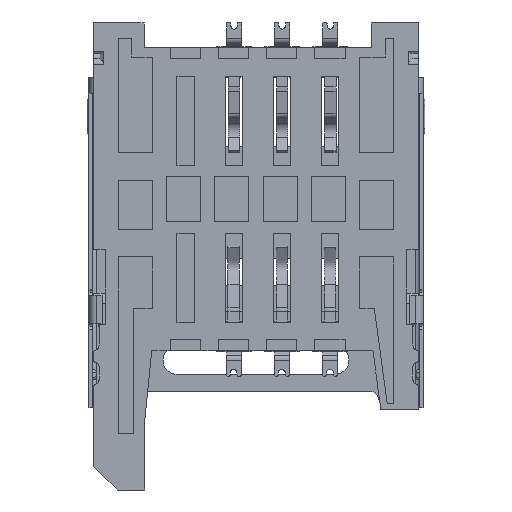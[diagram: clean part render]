
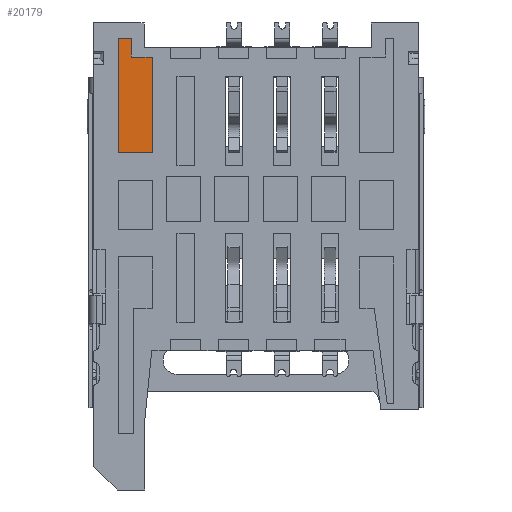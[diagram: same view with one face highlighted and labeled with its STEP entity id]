
A CAD part, front view. The second image highlights one B-rep face of the part: STEP entity #20179.
In plain terms, the highlighted planar face has unit normal (0, -1, 0).
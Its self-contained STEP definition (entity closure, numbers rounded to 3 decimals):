
#13895=DIRECTION('',(0.,0.,-1.));
#13896=VECTOR('',#13895,6.05);
#13897=CARTESIAN_POINT('',(-7.275,-0.65,11.525));
#13898=LINE('',#13897,#13896);
#13899=DIRECTION('',(-1.,0.,0.));
#13900=VECTOR('',#13899,0.7);
#13901=CARTESIAN_POINT('',(-6.575,-0.65,11.525));
#13902=LINE('',#13901,#13900);
#13903=DIRECTION('',(0.,0.,1.));
#13904=VECTOR('',#13903,1.);
#13905=CARTESIAN_POINT('',(-6.575,-0.65,10.525));
#13906=LINE('',#13905,#13904);
#13907=DIRECTION('',(-1.,0.,0.));
#13908=VECTOR('',#13907,1.1);
#13909=CARTESIAN_POINT('',(-5.475,-0.65,10.525));
#13910=LINE('',#13909,#13908);
#13911=DIRECTION('',(0.,0.,1.));
#13912=VECTOR('',#13911,5.05);
#13913=CARTESIAN_POINT('',(-5.475,-0.65,5.475));
#13914=LINE('',#13913,#13912);
#13915=DIRECTION('',(1.,0.,0.));
#13916=VECTOR('',#13915,1.8);
#13917=CARTESIAN_POINT('',(-7.275,-0.65,5.475));
#13918=LINE('',#13917,#13916);
#15318=CARTESIAN_POINT('',(-7.275,-0.65,11.525));
#15319=VERTEX_POINT('',#15318);
#15320=CARTESIAN_POINT('',(-7.275,-0.65,5.475));
#15321=VERTEX_POINT('',#15320);
#15322=CARTESIAN_POINT('',(-6.575,-0.65,11.525));
#15323=VERTEX_POINT('',#15322);
#15324=CARTESIAN_POINT('',(-6.575,-0.65,10.525));
#15325=VERTEX_POINT('',#15324);
#15326=CARTESIAN_POINT('',(-5.475,-0.65,10.525));
#15327=VERTEX_POINT('',#15326);
#15328=CARTESIAN_POINT('',(-5.475,-0.65,5.475));
#15329=VERTEX_POINT('',#15328);
#20166=CARTESIAN_POINT('',(-6.375,-0.65,8.5));
#20167=DIRECTION('',(0.,1.,0.));
#20168=DIRECTION('',(0.,0.,-1.));
#20169=AXIS2_PLACEMENT_3D('',#20166,#20167,#20168);
#20170=PLANE('',#20169);
#20171=ORIENTED_EDGE('',*,*,#20118,.F.);
#20172=ORIENTED_EDGE('',*,*,#20132,.F.);
#20173=ORIENTED_EDGE('',*,*,#20146,.F.);
#20174=ORIENTED_EDGE('',*,*,#20159,.F.);
#20175=ORIENTED_EDGE('',*,*,#20089,.F.);
#20176=ORIENTED_EDGE('',*,*,#20104,.F.);
#20177=EDGE_LOOP('',(#20171,#20172,#20173,#20174,#20175,#20176));
#20178=FACE_OUTER_BOUND('',#20177,.F.);
#20089=EDGE_CURVE('',#15329,#15327,#13914,.T.);
#20104=EDGE_CURVE('',#15321,#15329,#13918,.T.);
#20118=EDGE_CURVE('',#15319,#15321,#13898,.T.);
#20132=EDGE_CURVE('',#15323,#15319,#13902,.T.);
#20146=EDGE_CURVE('',#15325,#15323,#13906,.T.);
#20159=EDGE_CURVE('',#15327,#15325,#13910,.T.);
#20179=ADVANCED_FACE('',(#20178),#20170,.F.);
